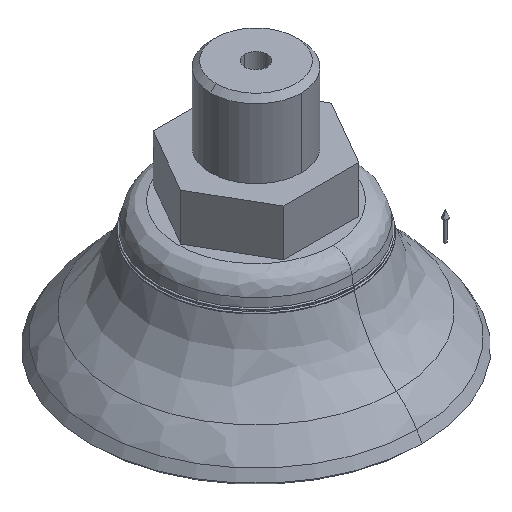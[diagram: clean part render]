
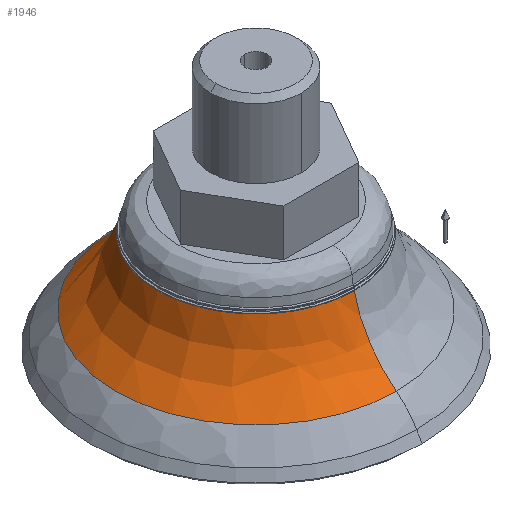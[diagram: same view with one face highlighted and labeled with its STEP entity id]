
A CAD part, isometric view. The second image highlights one B-rep face of the part: STEP entity #1946.
In plain terms, the highlighted free-form (B-spline) face has degree [3, 3] with [4, 4] control points.
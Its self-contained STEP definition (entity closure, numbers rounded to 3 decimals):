
#19 = VERTEX_POINT ( 'NONE', #165 ) ;
#21 = ORIENTED_EDGE ( 'NONE', *, *, #121, .F. ) ;
#23 = CARTESIAN_POINT ( 'NONE',  ( -22.344, -11.172, 8.051 ) ) ;
#71 = CARTESIAN_POINT ( 'NONE',  ( 0., -15.067, 3.801 ) ) ;
#121 = EDGE_CURVE ( 'NONE', #1265, #148, #1087, .T. ) ;
#128 = CARTESIAN_POINT ( 'NONE',  ( 0., -10.517, 10.902 ) ) ;
#138 = CIRCLE ( 'NONE', #1096, 10.517 ) ;
#148 = VERTEX_POINT ( 'NONE', #576 ) ;
#165 = CARTESIAN_POINT ( 'NONE',  ( 0., 10.517, 10.902 ) ) ;
#169 = CARTESIAN_POINT ( 'NONE',  ( 0., -10.517, 10.902 ) ) ;
#187 = EDGE_CURVE ( 'NONE', #19, #844, #138, .T. ) ;
#214 = DIRECTION ( 'NONE',  ( 0., -1., 0. ) ) ;
#273 = FACE_OUTER_BOUND ( 'NONE', #1280, .T. ) ;
#285 = EDGE_CURVE ( 'NONE', #19, #148, #1116, .T. ) ;
#316 = CIRCLE ( 'NONE', #1967, 12.5 ) ;
#342 = CARTESIAN_POINT ( 'NONE',  ( 0., -15.067, 3.801 ) ) ;
#444 = ORIENTED_EDGE ( 'NONE', *, *, #285, .T. ) ;
#576 = CARTESIAN_POINT ( 'NONE',  ( 0., 15.067, 3.801 ) ) ;
#592 = CARTESIAN_POINT ( 'NONE',  ( -21.034, -10.517, 10.902 ) ) ;
#787 = CARTESIAN_POINT ( 'NONE',  ( 0., 0., 3.801 ) ) ;
#790 = DIRECTION ( 'NONE',  ( 0., 0., -1. ) ) ;
#796 = DIRECTION ( 'NONE',  ( 0., 1., 0. ) ) ;
#844 = VERTEX_POINT ( 'NONE', #169 ) ;
#944 = ORIENTED_EDGE ( 'NONE', *, *, #187, .F. ) ;
#1039 = AXIS2_PLACEMENT_3D ( 'NONE', #787, #790, #796 ) ;
#1087 = CIRCLE ( 'NONE', #1039, 15.067 ) ;
#1096 = AXIS2_PLACEMENT_3D ( 'NONE', #1854, #1860, #1862 ) ;
#1116 = CIRCLE ( 'NONE', #1194, 12.5 ) ;
#1194 = AXIS2_PLACEMENT_3D ( 'NONE', #2078, #2081, #2091 ) ;
#1265 = VERTEX_POINT ( 'NONE', #342 ) ;
#1280 = EDGE_LOOP ( 'NONE', ( #1768, #944, #444, #21 ) ) ;
#1424 = CARTESIAN_POINT ( 'NONE',  ( 0., -22.7, 13.7 ) ) ;
#1429 = DIRECTION ( 'NONE',  ( -1., 0., 0. ) ) ;
#1586 =( BOUNDED_SURFACE ( )  B_SPLINE_SURFACE ( 3, 3, ( 
 ( #128, #592, #2127, #2080 ),
 ( #2125, #23, #2070, #2192 ),
 ( #2034, #2037, #2024, #2028 ),
 ( #71, #2001, #2016, #1988 ) ),
 .UNSPECIFIED., .F., .F., .T. ) 
 B_SPLINE_SURFACE_WITH_KNOTS ( ( 4, 4 ),
 ( 4, 4 ),
 ( 0., 1. ),
 ( 0., 1. ),
 .UNSPECIFIED. ) 
 GEOMETRIC_REPRESENTATION_ITEM ( )  RATIONAL_B_SPLINE_SURFACE ( (
 ( 1., 0.333, 0.333, 1.),
 ( 0.961, 0.32, 0.32, 0.961),
 ( 0.961, 0.32, 0.32, 0.961),
 ( 1., 0.333, 0.333, 1.) ) ) 
 REPRESENTATION_ITEM ( '' )  SURFACE ( )  );
#1597 = EDGE_CURVE ( 'NONE', #844, #1265, #316, .T. ) ;
#1768 = ORIENTED_EDGE ( 'NONE', *, *, #1597, .F. ) ;
#1854 = CARTESIAN_POINT ( 'NONE',  ( 0., 0., 10.902 ) ) ;
#1860 = DIRECTION ( 'NONE',  ( 0., 0., 1. ) ) ;
#1862 = DIRECTION ( 'NONE',  ( 0., 1., 0. ) ) ;
#1946 = ADVANCED_FACE ( 'NONE', ( #273 ), #1586, .F. ) ;
#1967 = AXIS2_PLACEMENT_3D ( 'NONE', #1424, #1429, #214 ) ;
#1988 = CARTESIAN_POINT ( 'NONE',  ( 0., 15.067, 3.801 ) ) ;
#2001 = CARTESIAN_POINT ( 'NONE',  ( -30.134, -15.067, 3.801 ) ) ;
#2016 = CARTESIAN_POINT ( 'NONE',  ( -30.134, 15.067, 3.801 ) ) ;
#2024 = CARTESIAN_POINT ( 'NONE',  ( -25.501, 12.75, 5.588 ) ) ;
#2028 = CARTESIAN_POINT ( 'NONE',  ( 0., 12.75, 5.588 ) ) ;
#2034 = CARTESIAN_POINT ( 'NONE',  ( 0., -12.75, 5.588 ) ) ;
#2037 = CARTESIAN_POINT ( 'NONE',  ( -25.501, -12.75, 5.588 ) ) ;
#2070 = CARTESIAN_POINT ( 'NONE',  ( -22.344, 11.172, 8.051 ) ) ;
#2078 = CARTESIAN_POINT ( 'NONE',  ( 0., 22.7, 13.7 ) ) ;
#2080 = CARTESIAN_POINT ( 'NONE',  ( 0., 10.517, 10.902 ) ) ;
#2081 = DIRECTION ( 'NONE',  ( 1., 0., 0. ) ) ;
#2091 = DIRECTION ( 'NONE',  ( 0., 1., 0. ) ) ;
#2125 = CARTESIAN_POINT ( 'NONE',  ( 0., -11.172, 8.051 ) ) ;
#2127 = CARTESIAN_POINT ( 'NONE',  ( -21.034, 10.517, 10.902 ) ) ;
#2192 = CARTESIAN_POINT ( 'NONE',  ( 0., 11.172, 8.051 ) ) ;
